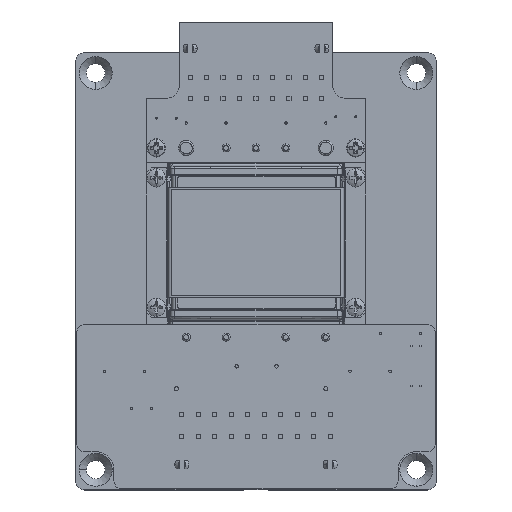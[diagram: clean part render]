
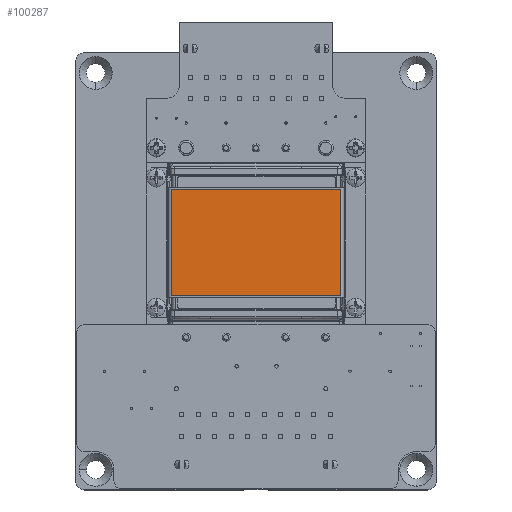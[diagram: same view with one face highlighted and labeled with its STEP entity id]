
A CAD part, top view. The second image highlights one B-rep face of the part: STEP entity #100287.
In plain terms, the highlighted planar face has unit normal (0, 0, 1).
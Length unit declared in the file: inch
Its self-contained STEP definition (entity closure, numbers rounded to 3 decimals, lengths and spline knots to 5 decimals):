
#3339 = CARTESIAN_POINT ( 'NONE',  ( -0.85249, -2.44246, 0.72144 ) ) ;
#3343 = CARTESIAN_POINT ( 'NONE',  ( 0.85261, -1.36925, 0.72144 ) ) ;
#3417 = CARTESIAN_POINT ( 'NONE',  ( 0.85261, -2.44246, 0.72144 ) ) ;
#3418 = CARTESIAN_POINT ( 'NONE',  ( -0.85249, -1.36925, 0.72144 ) ) ;
#22642 = EDGE_CURVE ( 'NONE', #48057, #47686, #128401, .T. ) ;
#22646 = EDGE_CURVE ( 'NONE', #47686, #48059, #128402, .T. ) ;
#22648 = EDGE_CURVE ( 'NONE', #47711, #48057, #128403, .T. ) ;
#22651 = EDGE_CURVE ( 'NONE', #48059, #47711, #128404, .T. ) ;
#30200 = PLANE ( 'NONE',  #140638 ) ;
#30203 = CARTESIAN_POINT ( 'NONE',  ( 0.78165, -2.40977, 0.72144 ) ) ;
#30206 = DIRECTION ( 'NONE',  ( 0., 0., 1. ) ) ;
#30207 = DIRECTION ( 'NONE',  ( 0., 1., 0. ) ) ;
#47686 = VERTEX_POINT ( 'NONE', #3339 ) ;
#47711 = VERTEX_POINT ( 'NONE', #3343 ) ;
#48057 = VERTEX_POINT ( 'NONE', #3417 ) ;
#48059 = VERTEX_POINT ( 'NONE', #3418 ) ;
#61746 = EDGE_LOOP ( 'NONE', ( #83717, #83706, #83712, #83703 ) ) ;
#63391 = CARTESIAN_POINT ( 'NONE',  ( 0.85137, -1.36925, 0.72144 ) ) ;
#63752 = DIRECTION ( 'NONE',  ( 1., 0., 0. ) ) ;
#63901 = DIRECTION ( 'NONE',  ( -1., 0., 0. ) ) ;
#63908 = CARTESIAN_POINT ( 'NONE',  ( -0.85124, -2.44246, 0.72144 ) ) ;
#63912 = CARTESIAN_POINT ( 'NONE',  ( 0.85261, -2.4575, 0.72144 ) ) ;
#63913 = DIRECTION ( 'NONE',  ( 0., -1., 0. ) ) ;
#63915 = CARTESIAN_POINT ( 'NONE',  ( -0.85249, -1.3542, 0.72144 ) ) ;
#63921 = DIRECTION ( 'NONE',  ( 0., 1., 0. ) ) ;
#70858 = VECTOR ( 'NONE', #63752, 39.37008 ) ;
#70972 = VECTOR ( 'NONE', #63921, 39.37008 ) ;
#71732 = VECTOR ( 'NONE', #63913, 39.37008 ) ;
#71941 = VECTOR ( 'NONE', #63901, 39.37008 ) ;
#83703 = ORIENTED_EDGE ( 'NONE', *, *, #22642, .F. ) ;
#83706 = ORIENTED_EDGE ( 'NONE', *, *, #22651, .F. ) ;
#83712 = ORIENTED_EDGE ( 'NONE', *, *, #22646, .F. ) ;
#83717 = ORIENTED_EDGE ( 'NONE', *, *, #22648, .F. ) ;
#100287 = ADVANCED_FACE ( 'NONE', ( #143241 ), #30200, .T. ) ;
#128401 = LINE ( 'NONE', #63908, #71941 ) ;
#128402 = LINE ( 'NONE', #63915, #70972 ) ;
#128403 = LINE ( 'NONE', #63912, #71732 ) ;
#128404 = LINE ( 'NONE', #63391, #70858 ) ;
#140638 = AXIS2_PLACEMENT_3D ( 'NONE', #30203, #30206, #30207 ) ;
#143241 = FACE_OUTER_BOUND ( 'NONE', #61746, .T. ) ;
